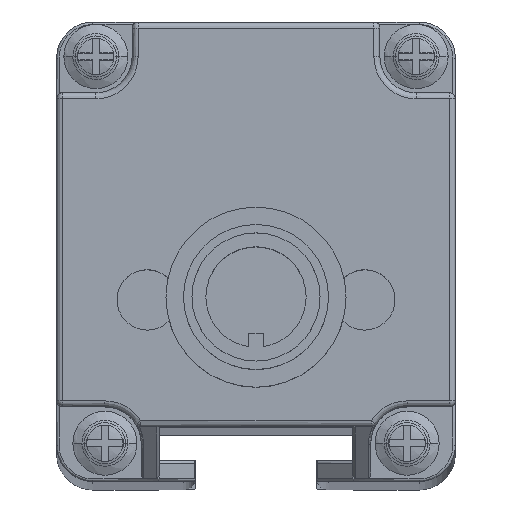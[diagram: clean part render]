
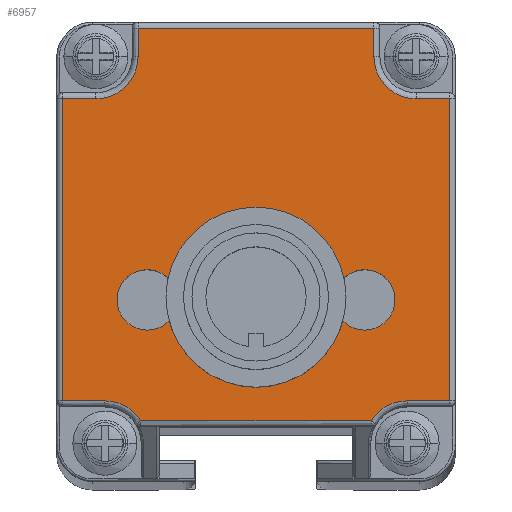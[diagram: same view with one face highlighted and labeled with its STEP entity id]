
A CAD part, top view. The second image highlights one B-rep face of the part: STEP entity #6957.
In plain terms, the highlighted planar face has unit normal (0, 0, 1).
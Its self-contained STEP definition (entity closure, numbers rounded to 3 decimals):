
#2821=CARTESIAN_POINT('',(-11.85,-19.904,
285.276));
#2822=DIRECTION('',(0.,0.,1.));
#2823=DIRECTION('',(0.849,0.528,0.));
#2824=AXIS2_PLACEMENT_3D('',#2821,#2822,#2823);
#2826=CARTESIAN_POINT('',(-12.6,12.094,285.276));
#2827=DIRECTION('',(0.,0.,1.));
#2828=DIRECTION('',(0.,-1.,0.));
#2829=AXIS2_PLACEMENT_3D('',#2826,#2827,#2828);
#2831=CARTESIAN_POINT('',(13.9,12.094,285.276));
#2832=DIRECTION('',(0.,0.,1.));
#2833=DIRECTION('',(-1.,0.,0.));
#2834=AXIS2_PLACEMENT_3D('',#2831,#2832,#2833);
#2836=CARTESIAN_POINT('',(13.15,-19.904,285.276));
#2837=DIRECTION('',(0.,0.,1.));
#2838=DIRECTION('',(0.,1.,0.));
#2839=AXIS2_PLACEMENT_3D('',#2836,#2837,#2838);
#2841=CARTESIAN_POINT('',(9.65,-8.055,285.276));
#2842=DIRECTION('',(0.,0.,1.));
#2843=DIRECTION('',(1.,-0.007,0.));
#2844=AXIS2_PLACEMENT_3D('',#2841,#2842,#2843);
#2846=CARTESIAN_POINT('',(9.65,-8.055,285.276));
#2847=DIRECTION('',(0.,0.,1.));
#2848=DIRECTION('',(-1.,0.007,0.));
#2849=AXIS2_PLACEMENT_3D('',#2846,#2847,#2848);
#2851=CARTESIAN_POINT('',(-8.35,-8.054,
285.276));
#2852=DIRECTION('',(0.,0.,1.));
#2853=DIRECTION('',(1.,0.007,0.));
#2854=AXIS2_PLACEMENT_3D('',#2851,#2852,#2853);
#2856=CARTESIAN_POINT('',(-8.35,-8.054,
285.276));
#2857=DIRECTION('',(0.,0.,1.));
#2858=DIRECTION('',(-1.,-0.007,0.));
#2859=AXIS2_PLACEMENT_3D('',#2856,#2857,#2858);
#2861=CARTESIAN_POINT('',(0.65,-8.054,
285.276));
#2862=DIRECTION('',(0.,0.,1.));
#2863=DIRECTION('',(1.,0.,0.));
#2864=AXIS2_PLACEMENT_3D('',#2861,#2862,#2863);
#2866=CARTESIAN_POINT('',(0.65,-8.054,
285.276));
#2867=DIRECTION('',(0.,0.,1.));
#2868=DIRECTION('',(-1.,0.,0.));
#2869=AXIS2_PLACEMENT_3D('',#2866,#2867,#2868);
#3057=DIRECTION('',(1.,0.,0.));
#3058=VECTOR('',#3057,19.056);
#3059=CARTESIAN_POINT('',(-8.878,-18.056,
285.276));
#3060=LINE('',#3059,#3058);
#3641=DIRECTION('',(0.,1.,0.));
#3642=VECTOR('',#3641,2.35);
#3643=CARTESIAN_POINT('',(10.4,12.094,285.276));
#3644=LINE('',#3643,#3642);
#3664=DIRECTION('',(-1.,0.,0.));
#3665=VECTOR('',#3664,19.5);
#3666=CARTESIAN_POINT('',(10.4,14.444,285.276));
#3667=LINE('',#3666,#3665);
#3688=DIRECTION('',(0.,-1.,0.));
#3689=VECTOR('',#3688,2.35);
#3690=CARTESIAN_POINT('',(-9.1,14.444,285.276));
#3691=LINE('',#3690,#3689);
#3715=DIRECTION('',(-1.,0.,0.));
#3716=VECTOR('',#3715,2.75);
#3717=CARTESIAN_POINT('',(-12.6,8.594,285.276));
#3718=LINE('',#3717,#3716);
#3886=DIRECTION('',(0.,-1.,0.));
#3887=VECTOR('',#3886,24.998);
#3888=CARTESIAN_POINT('',(-15.35,8.594,285.276));
#3889=LINE('',#3888,#3887);
#3925=DIRECTION('',(1.,0.,0.));
#3926=VECTOR('',#3925,3.5);
#3927=CARTESIAN_POINT('',(-15.35,-16.404,
285.276));
#3928=LINE('',#3927,#3926);
#4190=DIRECTION('',(-1.,0.,0.));
#4191=VECTOR('',#4190,2.75);
#4192=CARTESIAN_POINT('',(16.65,8.594,285.276));
#4193=LINE('',#4192,#4191);
#4249=DIRECTION('',(0.,1.,0.));
#4250=VECTOR('',#4249,24.998);
#4251=CARTESIAN_POINT('',(16.65,-16.404,285.276));
#4252=LINE('',#4251,#4250);
#4272=DIRECTION('',(1.,0.,0.));
#4273=VECTOR('',#4272,3.5);
#4274=CARTESIAN_POINT('',(13.15,-16.404,285.276));
#4275=LINE('',#4274,#4273);
#6017=CARTESIAN_POINT('',(12.15,-8.072,285.276));
#6018=VERTEX_POINT('',#6017);
#6019=CARTESIAN_POINT('',(7.15,-8.039,285.276));
#6020=VERTEX_POINT('',#6019);
#6021=CARTESIAN_POINT('',(-8.878,-18.056,
285.276));
#6022=CARTESIAN_POINT('',(-11.85,-16.404,
285.276));
#6023=VERTEX_POINT('',#6021);
#6024=VERTEX_POINT('',#6022);
#6025=CARTESIAN_POINT('',(-15.35,-16.404,
285.276));
#6026=VERTEX_POINT('',#6025);
#6027=CARTESIAN_POINT('',(-15.35,8.594,285.276));
#6028=VERTEX_POINT('',#6027);
#6029=CARTESIAN_POINT('',(-12.6,8.594,285.276));
#6030=VERTEX_POINT('',#6029);
#6031=CARTESIAN_POINT('',(-9.1,12.094,285.276));
#6032=VERTEX_POINT('',#6031);
#6033=CARTESIAN_POINT('',(-9.1,14.444,285.276));
#6034=VERTEX_POINT('',#6033);
#6035=CARTESIAN_POINT('',(10.4,14.444,285.276));
#6036=VERTEX_POINT('',#6035);
#6037=CARTESIAN_POINT('',(10.4,12.094,285.276));
#6038=VERTEX_POINT('',#6037);
#6039=CARTESIAN_POINT('',(13.9,8.594,285.276));
#6040=VERTEX_POINT('',#6039);
#6041=CARTESIAN_POINT('',(16.65,8.594,285.276));
#6042=VERTEX_POINT('',#6041);
#6043=CARTESIAN_POINT('',(16.65,-16.404,285.276));
#6044=VERTEX_POINT('',#6043);
#6045=CARTESIAN_POINT('',(13.15,-16.404,285.276));
#6046=VERTEX_POINT('',#6045);
#6047=CARTESIAN_POINT('',(10.178,-18.056,285.276));
#6048=VERTEX_POINT('',#6047);
#6049=CARTESIAN_POINT('',(-5.85,-8.037,
285.276));
#6050=CARTESIAN_POINT('',(-10.85,-8.07,
285.276));
#6051=VERTEX_POINT('',#6049);
#6052=VERTEX_POINT('',#6050);
#6053=CARTESIAN_POINT('',(3.65,-8.054,285.276));
#6054=CARTESIAN_POINT('',(-2.35,-8.054,
285.276));
#6055=VERTEX_POINT('',#6053);
#6056=VERTEX_POINT('',#6054);
#6906=CARTESIAN_POINT('',(0.65,0.944,
285.276));
#6907=DIRECTION('',(0.,0.,1.));
#6908=DIRECTION('',(1.,0.,0.));
#6909=AXIS2_PLACEMENT_3D('',#6906,#6907,#6908);
#6910=PLANE('',#6909);
#6912=ORIENTED_EDGE('',*,*,#6911,.T.);
#6914=ORIENTED_EDGE('',*,*,#6913,.F.);
#6916=ORIENTED_EDGE('',*,*,#6915,.F.);
#6918=ORIENTED_EDGE('',*,*,#6917,.F.);
#6920=ORIENTED_EDGE('',*,*,#6919,.T.);
#6922=ORIENTED_EDGE('',*,*,#6921,.F.);
#6924=ORIENTED_EDGE('',*,*,#6923,.F.);
#6926=ORIENTED_EDGE('',*,*,#6925,.F.);
#6928=ORIENTED_EDGE('',*,*,#6927,.T.);
#6930=ORIENTED_EDGE('',*,*,#6929,.F.);
#6932=ORIENTED_EDGE('',*,*,#6931,.F.);
#6934=ORIENTED_EDGE('',*,*,#6933,.F.);
#6936=ORIENTED_EDGE('',*,*,#6935,.T.);
#6938=ORIENTED_EDGE('',*,*,#6937,.F.);
#6939=EDGE_LOOP('',(#6912,#6914,#6916,#6918,#6920,#6922,#6924,#6926,#6928,#6930,
#6932,#6934,#6936,#6938));
#6940=FACE_OUTER_BOUND('',#6939,.F.);
#6941=ORIENTED_EDGE('',*,*,#6893,.T.);
#6942=ORIENTED_EDGE('',*,*,#6854,.T.);
#6943=EDGE_LOOP('',(#6941,#6942));
#6944=FACE_BOUND('',#6943,.F.);
#6946=ORIENTED_EDGE('',*,*,#6945,.T.);
#6948=ORIENTED_EDGE('',*,*,#6947,.T.);
#6949=EDGE_LOOP('',(#6946,#6948));
#6950=FACE_BOUND('',#6949,.F.);
#6952=ORIENTED_EDGE('',*,*,#6951,.T.);
#6954=ORIENTED_EDGE('',*,*,#6953,.T.);
#6955=EDGE_LOOP('',(#6952,#6954));
#6956=FACE_BOUND('',#6955,.F.);
#2825=CIRCLE('',#2824,3.5);
#2830=CIRCLE('',#2829,3.5);
#2835=CIRCLE('',#2834,3.5);
#2840=CIRCLE('',#2839,3.5);
#2845=CIRCLE('',#2844,2.5);
#2850=CIRCLE('',#2849,2.5);
#2855=CIRCLE('',#2854,2.5);
#2860=CIRCLE('',#2859,2.5);
#2865=CIRCLE('',#2864,3.);
#2870=CIRCLE('',#2869,3.);
#6854=EDGE_CURVE('',#6020,#6018,#2850,.T.);
#6893=EDGE_CURVE('',#6018,#6020,#2845,.T.);
#6911=EDGE_CURVE('',#6023,#6024,#2825,.T.);
#6913=EDGE_CURVE('',#6026,#6024,#3928,.T.);
#6915=EDGE_CURVE('',#6028,#6026,#3889,.T.);
#6917=EDGE_CURVE('',#6030,#6028,#3718,.T.);
#6919=EDGE_CURVE('',#6030,#6032,#2830,.T.);
#6921=EDGE_CURVE('',#6034,#6032,#3691,.T.);
#6923=EDGE_CURVE('',#6036,#6034,#3667,.T.);
#6925=EDGE_CURVE('',#6038,#6036,#3644,.T.);
#6927=EDGE_CURVE('',#6038,#6040,#2835,.T.);
#6929=EDGE_CURVE('',#6042,#6040,#4193,.T.);
#6931=EDGE_CURVE('',#6044,#6042,#4252,.T.);
#6933=EDGE_CURVE('',#6046,#6044,#4275,.T.);
#6935=EDGE_CURVE('',#6046,#6048,#2840,.T.);
#6937=EDGE_CURVE('',#6023,#6048,#3060,.T.);
#6945=EDGE_CURVE('',#6051,#6052,#2855,.T.);
#6947=EDGE_CURVE('',#6052,#6051,#2860,.T.);
#6951=EDGE_CURVE('',#6055,#6056,#2865,.T.);
#6953=EDGE_CURVE('',#6056,#6055,#2870,.T.);
#6957=ADVANCED_FACE('',(#6940,#6944,#6950,#6956),#6910,.T.);
